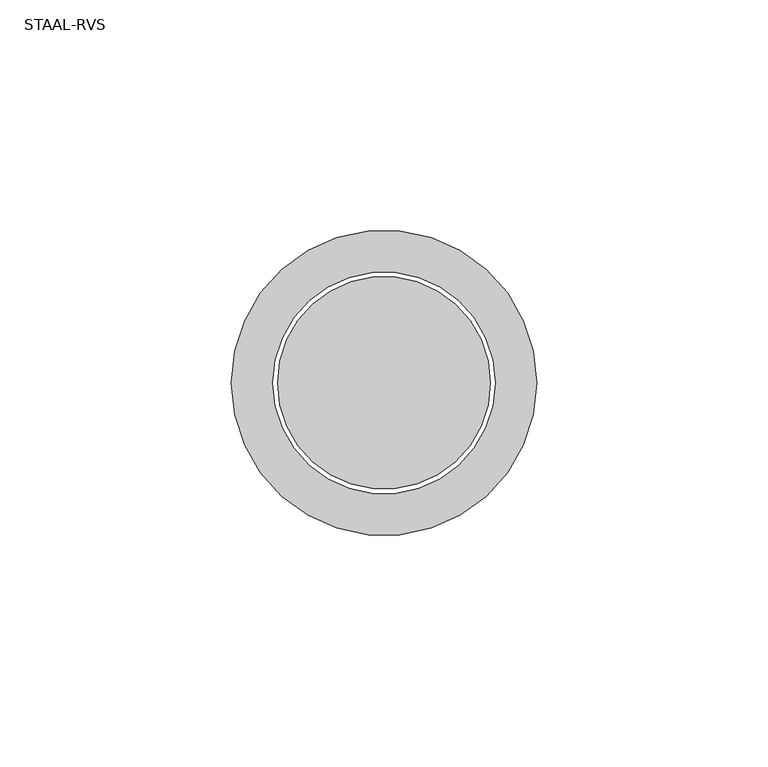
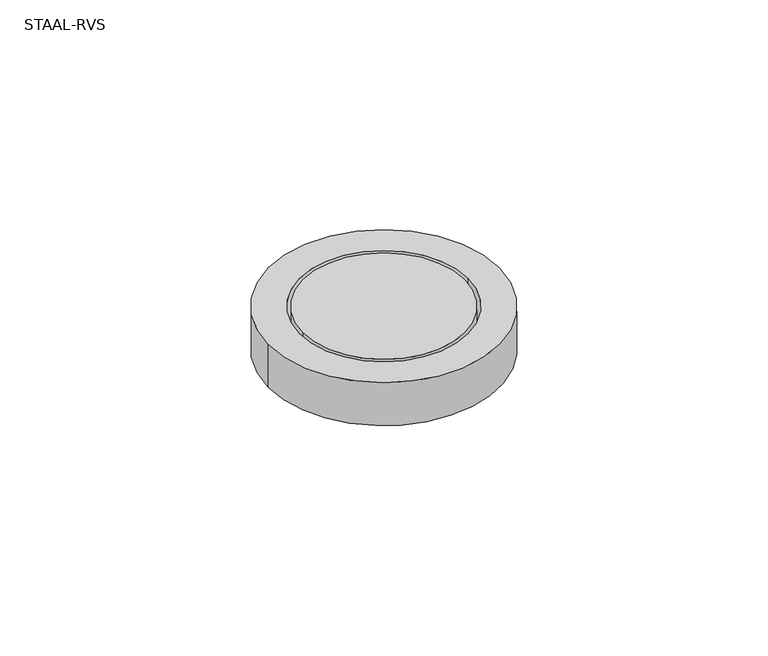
"""IFC4 building model written with IfcOpenShell, lengths in millimetres: flow terminal geometry, NLRS_74_PF_FB_bedieningspaneel solo steel_wisa : STAAL-RVS."""

from ifc_helpers import new_model, si_unit, point, origin, origin_with_axes, origin_2d, place, context, project, spatial, circle_curve, trimmed, segment, composite_curve, outline, extrude, source, transform, mapped, element, save


def staal_rvs_c18680d8(model_context):
    return source(origin(), model_context, "Body", "SweptSolid", [
        extrude(outline(composite_curve([segment(trimmed(circle_curve(origin_2d(), 23.0), [point((-23.0, 0.0))], [point((23.0, 0.0))], False, "CARTESIAN"), True, "CONTINUOUS"), segment(trimmed(circle_curve(origin_2d(), 23.0), [point((23.0, 0.0))], [point((-23.0, 0.0))], False, "CARTESIAN"), True, "CONTINUOUS")], self_intersect=False)), origin_with_axes(), (0.0, 0.0, 1.0), 13.0),
        extrude(outline(composite_curve([segment(trimmed(circle_curve(origin_2d(), 33.0), [point((-33.0, 0.0))], [point((33.0, 0.0))], False, "CARTESIAN"), True, "CONTINUOUS"), segment(trimmed(circle_curve(origin_2d(), 33.0), [point((33.0, 0.0))], [point((-33.0, 0.0))], False, "CARTESIAN"), True, "CONTINUOUS")], self_intersect=False), holes=[composite_curve([segment(trimmed(circle_curve(origin_2d(), 24.0), [point((-24.0, 0.0))], [point((24.0, 0.0))], True, "CARTESIAN"), True, "CONTINUOUS"), segment(trimmed(circle_curve(origin_2d(), 24.0), [point((24.0, 0.0))], [point((-24.0, 0.0))], True, "CARTESIAN"), True, "CONTINUOUS")], self_intersect=False)]), origin_with_axes(), (0.0, 0.0, 1.0), 13.0),
    ])


if __name__ == "__main__":
    model = new_model("IFC4")
    model_context = context("Model", 3, world=origin())
    ifc_project = project(units=[si_unit("LENGTHUNIT", "METRE", prefix="MILLI")], contexts=[model_context])
    site = spatial("IfcSite", under=ifc_project)
    building = spatial("IfcBuilding", under=site)
    placement = place(None, origin())
    staal_rvs_shape = staal_rvs_c18680d8(model_context)
    element("IfcFlowTerminal", 1, ObjectType="NLRS_74_PF_FB_bedieningspaneel solo steel_wisa : STAAL-RVS", at=placement, inside=building, context=model_context, shape_type="MappedRepresentation", body=[
        mapped(staal_rvs_shape, transform((0.0, 0.0, 0.0), x_axis=(1.0, 0.0, 0.0), y_axis=(0.0, 1.0, 0.0), z_axis=(0.0, 0.0, 1.0))),
    ])
    save(model, "model.ifc")
